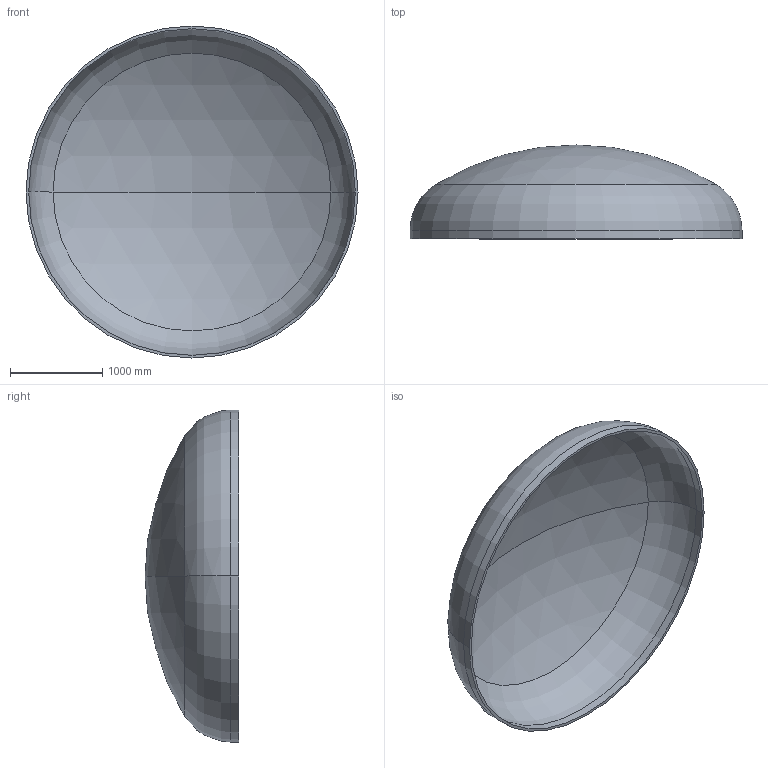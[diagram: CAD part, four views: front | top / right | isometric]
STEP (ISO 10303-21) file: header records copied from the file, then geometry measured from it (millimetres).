
FILE_DESCRIPTION (( 'STEP AP203' ), '1' );
FILE_NAME ('DIN 28013 Korbbogenform_-_Boden DIN 28013 - 3600 x 90 - I - s=29.step', '2016-07-01T20:17:13', ( '' ), ( '' ), 'SwSTEP 2.0', 'SolidWorks 2013', '' );
FILE_SCHEMA (( 'CONFIG_CONTROL_DESIGN' ));
Length unit declared in the file: millimetre
Products named in the file (1): DIN 28013 Korbbogenform_-_Boden DIN 28013 - 3600 x 90 - I - s=29
Bounding box: 3600 x 1017.34 x 3600 mm (x, y, z)
Volume: 433862460.7 mm3; surface area: 30248639.3 mm2
Topology: 1 solids, 1 shells, 13 faces, 24 edges, 14 vertices
Faces by surface type: torus 4, cylinder 4, sphere 4, plane 1
Entity records: 407 total; most frequent: DIRECTION 72, CARTESIAN_POINT 52, ORIENTED_EDGE 48, AXIS2_PLACEMENT_3D 34, EDGE_CURVE 24, CIRCLE 20, VERTEX_POINT 14, EDGE_LOOP 14
